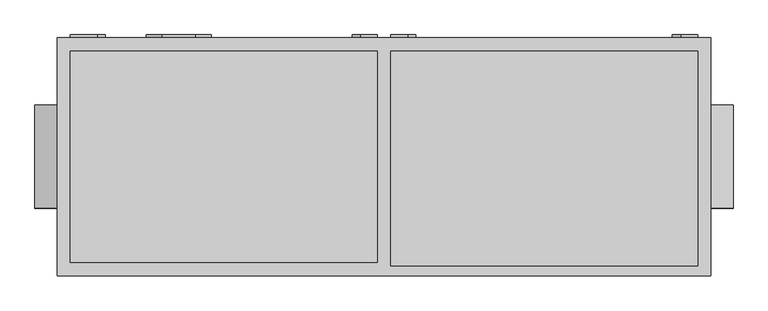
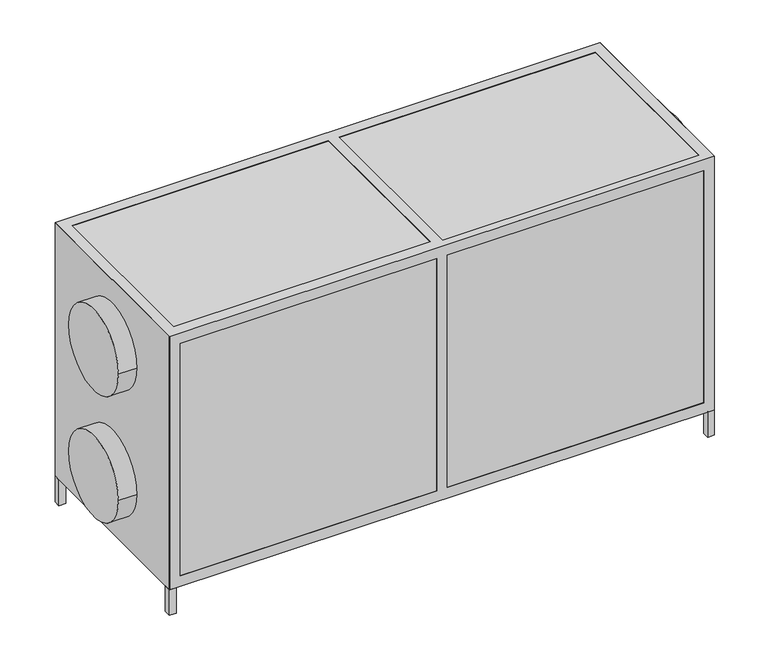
"""IFC4 building model written with IfcOpenShell, lengths in millimetres: proxy geometry, AVS 400...1600-S-RC(RG)-L : AVS 1600-S-RC-L."""

from ifc_helpers import new_model, si_unit, point, frame, frame_2d, origin, origin_with_axes, place, context, project, spatial, polyline, circle_curve, trimmed, segment, composite_curve, outline, extrude, faceted_brep, source, transform, mapped, element, save


def mechanical_equipment_707842d6(model_context):
    return source(origin(), model_context, "Body", "SolidModel", [
        extrude(outline(polyline([(974.0, 363.0), (999.0, 363.0), (999.0, 338.0), (974.0, 338.0), (974.0, 363.0)])), origin_with_axes(), (0.0, 0.0, 1.0), 100.0),
        extrude(outline(polyline([(974.0, -363.0), (974.0, -338.0), (999.0, -338.0), (999.0, -363.0), (974.0, -363.0)])), origin_with_axes(), (0.0, 0.0, 1.0), 100.0),
        extrude(outline(polyline([(-999.0, 338.0), (-999.0, 363.0), (-974.0, 363.0), (-974.0, 338.0), (-999.0, 338.0)])), origin_with_axes(), (0.0, 0.0, 1.0), 100.0),
        extrude(outline(polyline([(-999.0, -338.0), (-974.0, -338.0), (-974.0, -363.0), (-999.0, -363.0), (-999.0, -338.0)])), origin_with_axes(), (0.0, 0.0, 1.0), 100.0),
        faceted_brep([(998.0, 364.0, 1082.0), (-998.0, 364.0, 1082.0), (-998.0, -364.0, 1082.0), (998.0, -364.0, 1082.0), (-959.0, 323.0, 1082.0), (-20.0, 323.0, 1082.0), (-20.0, -323.0, 1082.0), (-959.0, -323.0, 1082.0), (959.0, 323.0, 1082.0), (959.0, -334.0, 1082.0), (20.0, -334.0, 1082.0), (20.0, 323.0, 1082.0), (998.0, 364.0, 99.0), (998.0, -364.0, 99.0), (-998.0, -364.0, 99.0), (-998.0, 364.0, 99.0), (-20.0, 323.0, 99.0), (-959.0, 323.0, 99.0), (-959.0, -323.0, 99.0), (-20.0, -323.0, 99.0), (959.0, -334.0, 99.0), (959.0, 323.0, 99.0), (20.0, 323.0, 99.0), (20.0, -334.0, 99.0), (-20.0, 364.0, 1041.0), (-959.0, 364.0, 1041.0), (-959.0, 364.0, 140.0), (-20.0, 364.0, 140.0), (959.0, 364.0, 140.0), (959.0, 364.0, 1041.0), (20.0, 364.0, 1041.0), (20.0, 364.0, 140.0), (-998.0, -323.0, 1041.0), (-998.0, -323.0, 140.0), (-998.0, 323.0, 140.0), (-998.0, 323.0, 1041.0), (-959.0, -364.0, 1041.0), (-20.0, -364.0, 1041.0), (-20.0, -364.0, 140.0), (-959.0, -364.0, 140.0), (959.0, -364.0, 1041.0), (959.0, -364.0, 140.0), (20.0, -364.0, 140.0), (20.0, -364.0, 1041.0), (998.0, -323.0, 140.0), (998.0, -323.0, 1041.0), (998.0, 323.0, 1041.0), (998.0, 323.0, 140.0), (-959.0, 323.0, 1041.0), (-20.0, 323.0, 1041.0), (-20.0, 323.0, 140.0), (-959.0, 323.0, 140.0), (-20.0, -323.0, 1041.0), (-959.0, -323.0, 1041.0), (-959.0, -323.0, 140.0), (-20.0, -323.0, 140.0), (959.0, 323.0, 1041.0), (959.0, -323.0, 1041.0), (959.0, -323.0, 140.0), (959.0, 323.0, 140.0), (959.0, -334.0, 140.0), (959.0, -334.0, 1041.0), (20.0, 323.0, 1041.0), (20.0, -323.0, 1041.0), (20.0, -323.0, 140.0), (20.0, 323.0, 140.0), (20.0, -334.0, 1041.0), (20.0, -334.0, 140.0)], [[[0, 1, 2, 3], [4, 5, 6, 7], [8, 9, 10, 11]], [[12, 13, 14, 15], [16, 17, 18, 19], [20, 21, 22, 23]], [[1, 0, 12, 15], [24, 25, 26, 27], [28, 29, 30, 31]], [[2, 1, 15, 14], [32, 33, 34, 35]], [[3, 2, 14, 13], [36, 37, 38, 39], [40, 41, 42, 43]], [[0, 3, 13, 12], [44, 45, 46, 47]], [[5, 4, 48, 49]], [[17, 16, 50, 51]], [[7, 6, 52, 53]], [[19, 18, 54, 55]], [[9, 8, 56, 57, 58, 59, 21, 20, 60, 41, 40, 61]], [[56, 29, 28, 59]], [[35, 48, 53, 32]], [[56, 46, 45, 57]], [[49, 62, 63, 52]], [[51, 34, 33, 54]], [[47, 59, 58, 44]], [[55, 64, 65, 50]], [[36, 53, 52, 37]], [[24, 49, 48, 25]], [[54, 39, 38, 55]], [[50, 27, 26, 51]], [[32, 53, 54, 33]], [[57, 45, 44, 58]], [[52, 63, 64, 55]], [[48, 35, 34, 51]], [[62, 49, 50, 65]], [[59, 47, 46, 56]], [[4, 7, 53, 48]], [[18, 17, 51, 54]], [[53, 36, 39, 54]], [[25, 48, 51, 26]], [[6, 5, 49, 52]], [[16, 19, 55, 50]], [[37, 52, 55, 38]], [[49, 24, 27, 50]], [[8, 11, 62, 56]], [[22, 21, 59, 65]], [[11, 10, 66, 43, 42, 67, 23, 22, 65, 64, 63, 62]], [[30, 62, 65, 31]], [[10, 9, 61, 66]], [[20, 23, 67, 60]], [[61, 40, 43, 66]], [[29, 56, 62, 30]], [[41, 60, 67, 42]], [[59, 28, 31, 65]]]),
        extrude(outline(polyline([(-999.0, 363.0), (999.0, 363.0), (999.0, -363.0), (-999.0, -363.0), (-999.0, 363.0)])), frame((0.0, 0.0, 100.0), z_axis=(0.0, 0.0, 1.0), x_axis=(1.0, 0.0, 0.0)), (0.0, 0.0, 1.0), 981.0),
        extrude(outline(composite_curve([segment(polyline([(860.75, -876.2895396), (860.75, -959.0), (810.75, -959.0), (810.75, -876.2895396)]), True, "CONTINUOUS"), segment(trimmed(circle_curve(frame_2d((835.75, -876.2895396)), 25.0), [point((810.75, -876.2895396))], [point((860.75, -876.2895396))], False, "CARTESIAN"), True, "CONTINUOUS")], self_intersect=False)), frame((0.0, 363.0, 0.0), z_axis=(0.0, 1.0, 0.0), x_axis=(0.0, 0.0, 1.0)), (0.0, 0.0, 1.0), 10.0),
        extrude(outline(composite_curve([segment(polyline([(370.25, -876.2895396), (370.25, -959.0), (320.25, -959.0), (320.25, -876.2895396)]), True, "CONTINUOUS"), segment(trimmed(circle_curve(frame_2d((345.25, -876.2895396)), 25.0), [point((320.25, -876.2895396))], [point((370.25, -876.2895396))], False, "CARTESIAN"), True, "CONTINUOUS")], self_intersect=False)), frame((0.0, 363.0, 0.0), z_axis=(0.0, 1.0, 0.0), x_axis=(0.0, 0.0, 1.0)), (0.0, 0.0, 1.0), 10.0),
        extrude(outline(composite_curve([segment(trimmed(circle_curve(frame_2d((693.5, -72.7104604)), 25.0), [point((718.5, -72.7104604))], [point((668.5, -72.7104604))], False, "CARTESIAN"), True, "CONTINUOUS"), segment(polyline([(668.5, -72.7104604), (668.5, -20.0), (718.5, -20.0), (718.5, -72.7104604)]), True, "CONTINUOUS")], self_intersect=False)), frame((0.0, 363.0, 0.0), z_axis=(0.0, 1.0, 0.0), x_axis=(0.0, 0.0, 1.0)), (0.0, 0.0, 1.0), 10.0),
        extrude(outline(composite_curve([segment(polyline([(390.25, -72.7104604), (390.25, -20.0), (440.25, -20.0), (440.25, -72.7104604)]), True, "CONTINUOUS"), segment(trimmed(circle_curve(frame_2d((415.25, -72.7104604)), 25.0), [point((440.25, -72.7104604))], [point((390.25, -72.7104604))], False, "CARTESIAN"), True, "CONTINUOUS")], self_intersect=False)), frame((0.0, 363.0, 0.0), z_axis=(0.0, 1.0, 0.0), x_axis=(0.0, 0.0, 1.0)), (0.0, 0.0, 1.0), 10.0),
        extrude(outline(composite_curve([segment(trimmed(circle_curve(frame_2d((943.75, 906.2895396)), 25.0), [point((968.75, 906.2895396))], [point((918.75, 906.2895396))], False, "CARTESIAN"), True, "CONTINUOUS"), segment(polyline([(918.75, 906.2895396), (918.75, 959.0), (968.75, 959.0), (968.75, 906.2895396)]), True, "CONTINUOUS")], self_intersect=False)), frame((0.0, 363.0, 0.0), z_axis=(0.0, 1.0, 0.0), x_axis=(0.0, 0.0, 1.0)), (0.0, 0.0, 1.0), 10.0),
        extrude(outline(composite_curve([segment(polyline([(212.25, 906.2895396), (212.25, 959.0), (262.25, 959.0), (262.25, 906.2895396)]), True, "CONTINUOUS"), segment(trimmed(circle_curve(frame_2d((237.25, 906.2895396)), 25.0), [point((262.25, 906.2895396))], [point((212.25, 906.2895396))], False, "CARTESIAN"), True, "CONTINUOUS")], self_intersect=False)), frame((0.0, 363.0, 0.0), z_axis=(0.0, 1.0, 0.0), x_axis=(0.0, 0.0, 1.0)), (0.0, 0.0, 1.0), 10.0),
        extrude(outline(composite_curve([segment(polyline([(910.75, 72.7104604), (910.75, 20.0), (860.75, 20.0), (860.75, 72.7104604)]), True, "CONTINUOUS"), segment(trimmed(circle_curve(frame_2d((885.75, 72.7104604)), 25.0), [point((860.75, 72.7104604))], [point((910.75, 72.7104604))], False, "CARTESIAN"), True, "CONTINUOUS")], self_intersect=False)), frame((0.0, 363.0, 0.0), z_axis=(0.0, 1.0, 0.0), x_axis=(0.0, 0.0, 1.0)), (0.0, 0.0, 1.0), 10.0),
        extrude(outline(composite_curve([segment(trimmed(circle_curve(frame_2d((295.25, 72.7104604)), 25.0), [point((270.25, 72.7104604))], [point((320.25, 72.7104604))], False, "CARTESIAN"), True, "CONTINUOUS"), segment(polyline([(320.25, 72.7104604), (320.25, 20.0), (270.25, 20.0), (270.25, 72.7104604)]), True, "CONTINUOUS")], self_intersect=False)), frame((0.0, 363.0, 0.0), z_axis=(0.0, 1.0, 0.0), x_axis=(0.0, 0.0, 1.0)), (0.0, 0.0, 1.0), 10.0),
        extrude(outline(composite_curve([segment(polyline([(959.7031077, -577.4249776), (959.7031077, -677.4249776)]), True, "CONTINUOUS"), segment(trimmed(circle_curve(frame_2d((909.7031077, -677.4249776)), 50.0), [point((959.7031077, -677.4249776))], [point((859.7031077, -677.4249776))], False, "CARTESIAN"), True, "CONTINUOUS"), segment(polyline([(859.7031077, -677.4249776), (859.7031077, -577.4249776)]), True, "CONTINUOUS"), segment(trimmed(circle_curve(frame_2d((909.7031077, -577.4249776)), 50.0), [point((859.7031077, -577.4249776))], [point((959.7031077, -577.4249776))], False, "CARTESIAN"), True, "CONTINUOUS")], self_intersect=False)), frame((0.0, 363.0, 0.0), z_axis=(0.0, 1.0, 0.0), x_axis=(0.0, 0.0, 1.0)), (0.0, 0.0, 1.0), 10.0),
        extrude(outline(composite_curve([segment(trimmed(circle_curve(frame_2d((0.0, 835.75)), 157.5), [point((-157.5, 835.75))], [point((157.5, 835.75))], False, "CARTESIAN"), True, "CONTINUOUS"), segment(trimmed(circle_curve(frame_2d((0.0, 835.75)), 157.5), [point((157.5, 835.75))], [point((-157.5, 835.75))], False, "CARTESIAN"), True, "CONTINUOUS")], self_intersect=False)), frame((-1067.0, 0.0, 0.0), z_axis=(1.0, 0.0, 0.0), x_axis=(0.0, 1.0, 0.0)), (0.0, 0.0, 1.0), 68.0),
        extrude(outline(composite_curve([segment(trimmed(circle_curve(frame_2d((0.0, 345.25)), 157.5), [point((-157.5, 345.25))], [point((157.5, 345.25))], False, "CARTESIAN"), True, "CONTINUOUS"), segment(trimmed(circle_curve(frame_2d((0.0, 345.25)), 157.5), [point((157.5, 345.25))], [point((-157.5, 345.25))], False, "CARTESIAN"), True, "CONTINUOUS")], self_intersect=False)), frame((-1067.0, 0.0, 0.0), z_axis=(1.0, 0.0, 0.0), x_axis=(0.0, 1.0, 0.0)), (0.0, 0.0, 1.0), 68.0),
        extrude(outline(composite_curve([segment(trimmed(circle_curve(frame_2d((0.0, 835.75)), 157.5), [point((-157.5, 835.75))], [point((157.5, 835.75))], False, "CARTESIAN"), True, "CONTINUOUS"), segment(trimmed(circle_curve(frame_2d((0.0, 835.75)), 157.5), [point((157.5, 835.75))], [point((-157.5, 835.75))], False, "CARTESIAN"), True, "CONTINUOUS")], self_intersect=False)), frame((999.0, 0.0, 0.0), z_axis=(1.0, 0.0, 0.0), x_axis=(0.0, 1.0, 0.0)), (0.0, 0.0, 1.0), 68.0),
        extrude(outline(composite_curve([segment(trimmed(circle_curve(frame_2d((0.0, 345.25)), 157.5), [point((-157.5, 345.25))], [point((157.5, 345.25))], False, "CARTESIAN"), True, "CONTINUOUS"), segment(trimmed(circle_curve(frame_2d((0.0, 345.25)), 157.5), [point((157.5, 345.25))], [point((-157.5, 345.25))], False, "CARTESIAN"), True, "CONTINUOUS")], self_intersect=False)), frame((999.0, 0.0, 0.0), z_axis=(1.0, 0.0, 0.0), x_axis=(0.0, 1.0, 0.0)), (0.0, 0.0, 1.0), 68.0),
    ])


if __name__ == "__main__":
    model = new_model("IFC4")
    model_context = context("Model", 3, world=origin())
    ifc_project = project(units=[si_unit("LENGTHUNIT", "METRE", prefix="MILLI")], contexts=[model_context])
    site = spatial("IfcSite", under=ifc_project)
    building = spatial("IfcBuilding", under=site)
    placement = place(None, origin())
    mechanical_equipment_shape = mechanical_equipment_707842d6(model_context)
    element("IfcBuildingElementProxy", 1, Name="AVS 400...1600-S-RC(RG)-L : AVS 1600-S-RC-L", ObjectType="AVS 400...1600-S-RC(RG)-L : AVS 1600-S-RC-L", at=placement, inside=building, context=model_context, shape_type="MappedRepresentation", body=[
        mapped(mechanical_equipment_shape, transform((0.0, 0.0, 0.0), x_axis=(1.0, 0.0, 0.0), y_axis=(0.0, 1.0, 0.0), z_axis=(0.0, 0.0, 1.0))),
    ])
    save(model, "model.ifc")
